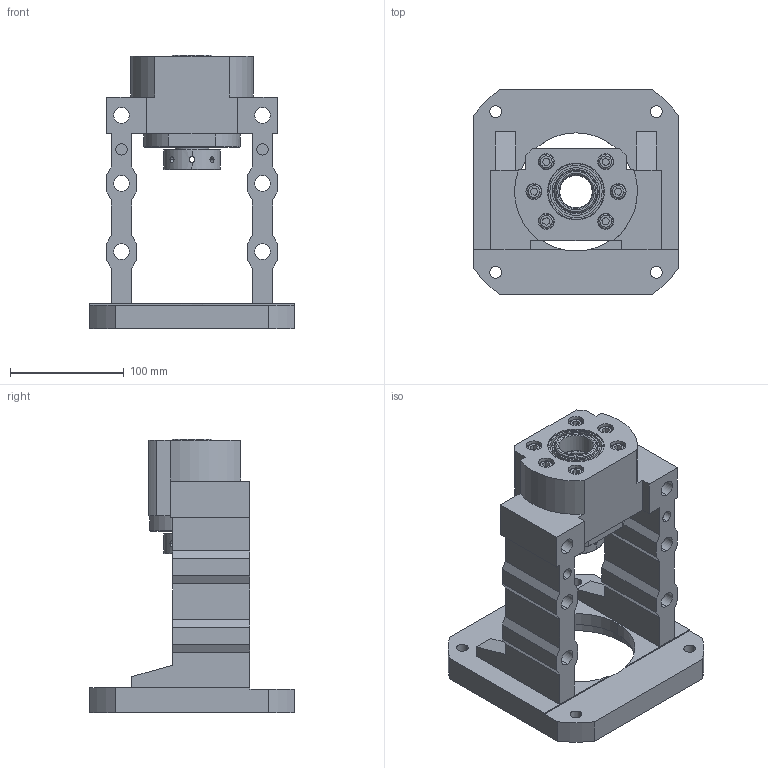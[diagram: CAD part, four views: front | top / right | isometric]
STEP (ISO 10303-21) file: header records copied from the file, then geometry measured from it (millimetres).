
FILE_DESCRIPTION (( 'STEP AP203' ), '1' );
FILE_NAME ('MBCK30-H²Õ¦X¥ó.STEP', '2022-10-20T03:22:08', ( '' ), ( '' ), 'SwSTEP 2.0', 'SolidWorks 2018', '' );
FILE_SCHEMA (( 'CONFIG_CONTROL_DESIGN' ));
Length unit declared in the file: millimetre
Products named in the file (1): MBCK30-H組合件
Bounding box: 180 x 180 x 241 mm (x, y, z)
Surface area: 225083 mm2 (no closed solid volume)
Topology: 0 solids, 21 shells, 339 faces, 941 edges, 620 vertices
Faces by surface type: plane 134, cylinder 122, cone 59, torus 24
Entity records: 12153 total; most frequent: CARTESIAN_POINT 3371, DIRECTION 1855, ORIENTED_EDGE 1671, EDGE_CURVE 933, AXIS2_PLACEMENT_3D 696, VERTEX_POINT 620, LINE 463, VECTOR 463
